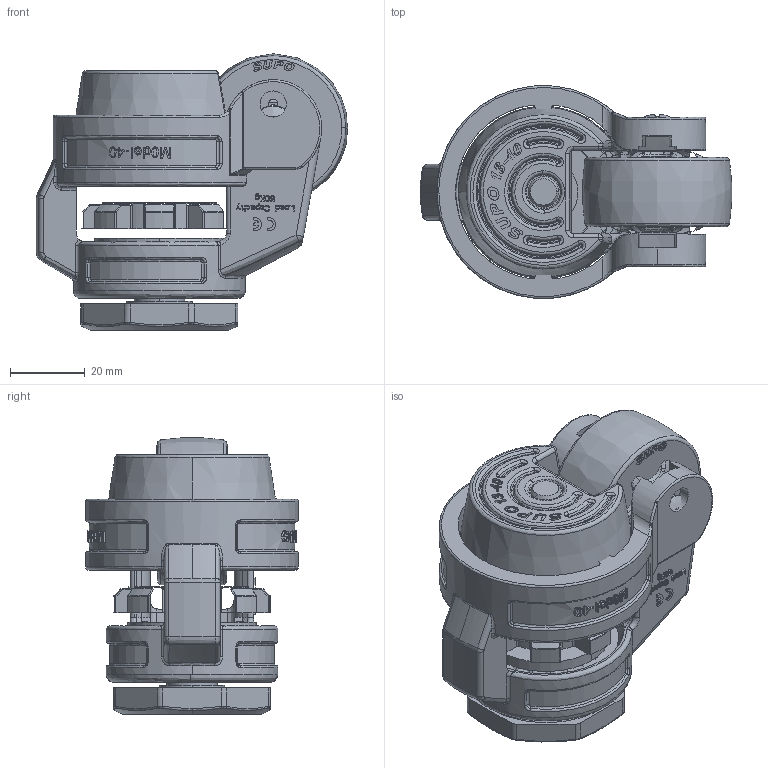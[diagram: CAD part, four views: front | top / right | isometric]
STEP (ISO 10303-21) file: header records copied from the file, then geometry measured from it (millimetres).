
FILE_DESCRIPTION (( 'STEP AP214' ), '1' );
FILE_NAME ('HT13-03-40S-643.STEP', '2025-10-01T09:46:20', ( '' ), ( '' ), 'SwSTEP 2.0', 'SolidWorks 2022', '' );
FILE_SCHEMA (( 'AUTOMOTIVE_DESIGN' ));
Length unit declared in the file: millimetre
Products named in the file (1): HT13-03-40S-643
Bounding box: 83.31 x 56.9 x 73.98 mm (x, y, z)
Surface area: 36209.9 mm2 (no closed solid volume)
Topology: 0 solids, 26 shells, 1521 faces, 5392 edges, 3696 vertices
Faces by surface type: bspline 673, plane 578, cylinder 207, cone 63
Entity records: 89949 total; most frequent: CARTESIAN_POINT 34440, ORIENTED_EDGE 8792, DIRECTION 5726, EDGE_CURVE 5295, VERTEX_POINT 3696, LINE 2804, VECTOR 2804, EDGE_LOOP 1644
